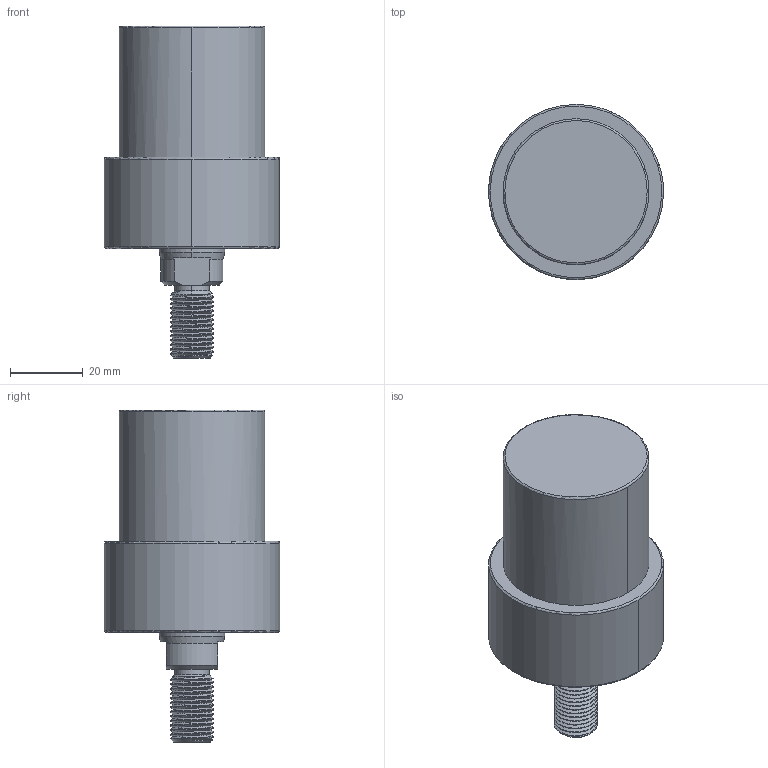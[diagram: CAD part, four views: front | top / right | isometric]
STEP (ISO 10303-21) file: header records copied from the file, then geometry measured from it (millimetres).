
FILE_DESCRIPTION((' '),'2;1');
FILE_NAME( 'TLLU-040GT-025.STEP.stp', '2025-10-24T16:37:13', (' '), ('--- Datakit www.datakit.com---'), ' Datakit CrossCadWare V2024.1 Dec 21 2023', 'Mastercam 2025', ' ');
FILE_SCHEMA(('AUTOMOTIVE_DESIGN { 1 0 10303 214 1 1 1 1 }'));
Length unit declared in the file: millimetre
Products named in the file (1): TLLU-040GT-025
Bounding box: 47.99 x 48 x 91 mm (x, y, z)
Volume: 93601.5 mm3; surface area: 14330.7 mm2
Topology: 1 solids, 1 shells, 94 faces, 333 edges, 242 vertices
Faces by surface type: cylinder 49, cone 25, plane 12, torus 6, bspline 2
Entity records: 9214 total; most frequent: CARTESIAN_POINT 6464, ORIENTED_EDGE 650, DIRECTION 500, EDGE_CURVE 325, VERTEX_POINT 242, AXIS2_PLACEMENT_3D 210, B_SPLINE_CURVE_WITH_KNOTS 128, CIRCLE 117
